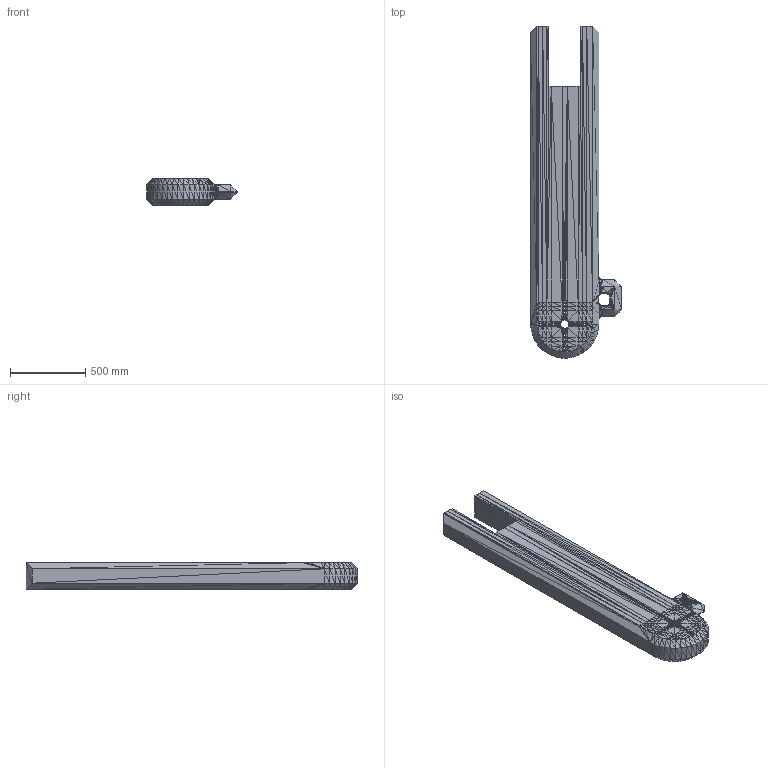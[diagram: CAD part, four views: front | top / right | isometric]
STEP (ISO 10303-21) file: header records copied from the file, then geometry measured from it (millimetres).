
FILE_DESCRIPTION(/* description */ (''),/* implementation_level */ '2;1');
FILE_NAME(/* name */ 'forearm.step',/* time_stamp */ '2026-08-26T22:02:19+02:00',/* author */ (''),/* organization */ (''),/* preprocessor_version */ 'ST-DEVELOPER v20.1',/* originating_system */ 'Autodesk Translation Framework v15.8.0.0',/* authorisation */ '');
FILE_SCHEMA (('AUTOMOTIVE_DESIGN { 1 0 10303 214 3 1 1 }'));
Products named in the file (1): 2026-08-26-22-01-57-405
Bounding box: 600 x 2199.23 x 175 mm (x, y, z)
Volume: 148214053.8 mm3; surface area: 2795619.6 mm2
Topology: 1 solids, 1 shells, 5614 faces, 8421 edges, 2773 vertices
Faces by surface type: plane 5614
Entity records: 109446 total; most frequent: DIRECTION 19651, ORIENTED_EDGE 16842, CARTESIAN_POINT 16809, LINE 8421, VECTOR 8421, EDGE_CURVE 8421, AXIS2_PLACEMENT_3D 5615, FACE_OUTER_BOUND 5614
